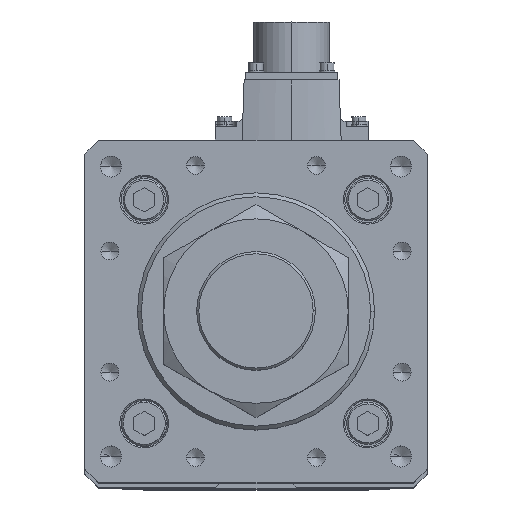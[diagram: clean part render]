
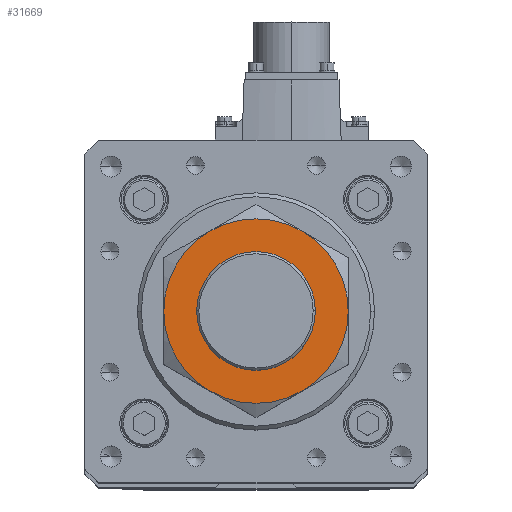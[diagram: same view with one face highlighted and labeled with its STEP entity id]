
A CAD part, top view. The second image highlights one B-rep face of the part: STEP entity #31669.
In plain terms, the highlighted planar face has unit normal (0, 0, 1).
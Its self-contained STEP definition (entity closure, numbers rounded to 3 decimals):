
#296 = EDGE_CURVE ( 'NONE', #5716, #19625, #1126, .T. ) ;
#531 = FACE_BOUND ( 'NONE', #767, .T. ) ;
#729 = ORIENTED_EDGE ( 'NONE', *, *, #18587, .F. ) ;
#767 = EDGE_LOOP ( 'NONE', ( #25788, #28900 ) ) ;
#1126 = CIRCLE ( 'NONE', #3678, 35. ) ;
#1619 = CARTESIAN_POINT ( 'NONE',  ( -22.5, 0., 27. ) ) ;
#1721 = EDGE_LOOP ( 'NONE', ( #32233, #7693, #28922, #729, #21215, #23949 ) ) ;
#2549 = VERTEX_POINT ( 'NONE', #1619 ) ;
#2574 = CARTESIAN_POINT ( 'NONE',  ( 0., 0., 27. ) ) ;
#3590 = CARTESIAN_POINT ( 'NONE',  ( 17.5, -30.311, 27. ) ) ;
#3678 = AXIS2_PLACEMENT_3D ( 'NONE', #2574, #8386, #17156 ) ;
#3683 = CARTESIAN_POINT ( 'NONE',  ( -17.5, -30.311, 27. ) ) ;
#3808 = DIRECTION ( 'NONE',  ( -1., 0., 0. ) ) ;
#4371 = CARTESIAN_POINT ( 'NONE',  ( 0., 0., 27. ) ) ;
#4772 = CIRCLE ( 'NONE', #34417, 35. ) ;
#4800 = CARTESIAN_POINT ( 'NONE',  ( 35., 0., 27. ) ) ;
#5235 = CIRCLE ( 'NONE', #8269, 35. ) ;
#5716 = VERTEX_POINT ( 'NONE', #4800 ) ;
#7668 = EDGE_CURVE ( 'NONE', #33533, #14512, #4772, .T. ) ;
#7693 = ORIENTED_EDGE ( 'NONE', *, *, #30594, .F. ) ;
#8269 = AXIS2_PLACEMENT_3D ( 'NONE', #4371, #24967, #16239 ) ;
#8386 = DIRECTION ( 'NONE',  ( 0., 0., -1. ) ) ;
#8391 = FACE_OUTER_BOUND ( 'NONE', #1721, .T. ) ;
#9106 = EDGE_CURVE ( 'NONE', #35668, #2549, #34868, .T. ) ;
#9463 = DIRECTION ( 'NONE',  ( -1., 0., 0. ) ) ;
#12426 = DIRECTION ( 'NONE',  ( 0., 0., -1. ) ) ;
#12464 = CARTESIAN_POINT ( 'NONE',  ( 0., 0., 27. ) ) ;
#13669 = AXIS2_PLACEMENT_3D ( 'NONE', #14478, #28911, #32142 ) ;
#14449 = AXIS2_PLACEMENT_3D ( 'NONE', #29389, #32332, #14682 ) ;
#14478 = CARTESIAN_POINT ( 'NONE',  ( 0., 0., 27. ) ) ;
#14512 = VERTEX_POINT ( 'NONE', #28547 ) ;
#14682 = DIRECTION ( 'NONE',  ( 1., 0., 0. ) ) ;
#15301 = DIRECTION ( 'NONE',  ( 0., 0., -1. ) ) ;
#15497 = VERTEX_POINT ( 'NONE', #24536 ) ;
#15907 = PLANE ( 'NONE',  #28828 ) ;
#16239 = DIRECTION ( 'NONE',  ( -1., 0., 0. ) ) ;
#16707 = AXIS2_PLACEMENT_3D ( 'NONE', #21581, #12426, #9463 ) ;
#16995 = AXIS2_PLACEMENT_3D ( 'NONE', #27123, #33095, #3808 ) ;
#17156 = DIRECTION ( 'NONE',  ( -1., 0., 0. ) ) ;
#17907 = EDGE_CURVE ( 'NONE', #2549, #35668, #24023, .T. ) ;
#18249 = CIRCLE ( 'NONE', #13669, 35. ) ;
#18587 = EDGE_CURVE ( 'NONE', #15497, #33533, #27200, .T. ) ;
#19518 = CIRCLE ( 'NONE', #16995, 35. ) ;
#19625 = VERTEX_POINT ( 'NONE', #3590 ) ;
#20115 = DIRECTION ( 'NONE',  ( 1., 0., 0. ) ) ;
#20228 = CARTESIAN_POINT ( 'NONE',  ( 0., 0., 27. ) ) ;
#20282 = EDGE_CURVE ( 'NONE', #36351, #15497, #19518, .T. ) ;
#21215 = ORIENTED_EDGE ( 'NONE', *, *, #20282, .F. ) ;
#21581 = CARTESIAN_POINT ( 'NONE',  ( 0., 0., 27. ) ) ;
#21824 = DIRECTION ( 'NONE',  ( 1., 0., 0. ) ) ;
#23949 = ORIENTED_EDGE ( 'NONE', *, *, #36925, .F. ) ;
#24023 = CIRCLE ( 'NONE', #14449, 22.5 ) ;
#24267 = CARTESIAN_POINT ( 'NONE',  ( 0., 0., 27. ) ) ;
#24536 = CARTESIAN_POINT ( 'NONE',  ( -35., 0., 27. ) ) ;
#24967 = DIRECTION ( 'NONE',  ( 0., 0., -1. ) ) ;
#25788 = ORIENTED_EDGE ( 'NONE', *, *, #17907, .F. ) ;
#27123 = CARTESIAN_POINT ( 'NONE',  ( 0., 0., 27. ) ) ;
#27200 = CIRCLE ( 'NONE', #16707, 35. ) ;
#28547 = CARTESIAN_POINT ( 'NONE',  ( 17.5, 30.311, 27. ) ) ;
#28828 = AXIS2_PLACEMENT_3D ( 'NONE', #24267, #30248, #21824 ) ;
#28900 = ORIENTED_EDGE ( 'NONE', *, *, #9106, .F. ) ;
#28911 = DIRECTION ( 'NONE',  ( 0., 0., -1. ) ) ;
#28922 = ORIENTED_EDGE ( 'NONE', *, *, #7668, .F. ) ;
#29389 = CARTESIAN_POINT ( 'NONE',  ( 0., 0., 27. ) ) ;
#30248 = DIRECTION ( 'NONE',  ( 0., 0., 1. ) ) ;
#30594 = EDGE_CURVE ( 'NONE', #14512, #5716, #5235, .T. ) ;
#31669 = ADVANCED_FACE ( 'NONE', ( #8391, #531 ), #15907, .T. ) ;
#31743 = AXIS2_PLACEMENT_3D ( 'NONE', #20228, #34564, #20115 ) ;
#32142 = DIRECTION ( 'NONE',  ( -1., 0., 0. ) ) ;
#32233 = ORIENTED_EDGE ( 'NONE', *, *, #296, .F. ) ;
#32332 = DIRECTION ( 'NONE',  ( 0., 0., 1. ) ) ;
#33095 = DIRECTION ( 'NONE',  ( 0., 0., -1. ) ) ;
#33103 = DIRECTION ( 'NONE',  ( -1., 0., 0. ) ) ;
#33533 = VERTEX_POINT ( 'NONE', #34975 ) ;
#34417 = AXIS2_PLACEMENT_3D ( 'NONE', #12464, #15301, #33103 ) ;
#34564 = DIRECTION ( 'NONE',  ( 0., 0., 1. ) ) ;
#34868 = CIRCLE ( 'NONE', #31743, 22.5 ) ;
#34975 = CARTESIAN_POINT ( 'NONE',  ( -17.5, 30.311, 27. ) ) ;
#35462 = CARTESIAN_POINT ( 'NONE',  ( 22.5, 0., 27. ) ) ;
#35668 = VERTEX_POINT ( 'NONE', #35462 ) ;
#36351 = VERTEX_POINT ( 'NONE', #3683 ) ;
#36925 = EDGE_CURVE ( 'NONE', #19625, #36351, #18249, .T. ) ;
